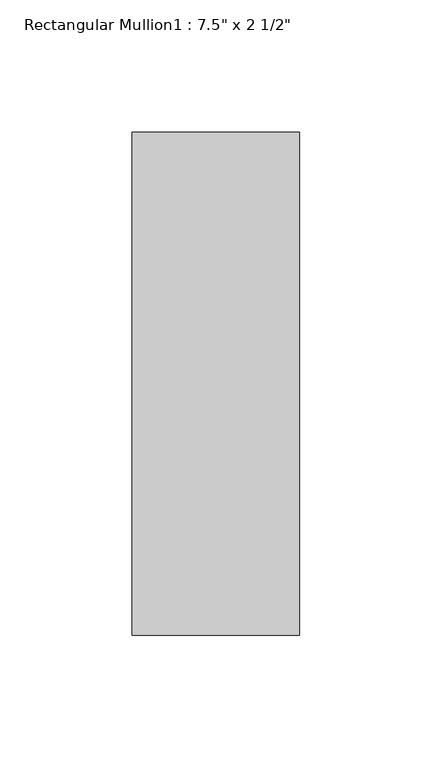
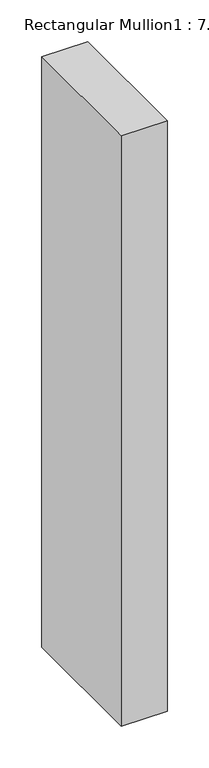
"""IFC4 building model written with IfcOpenShell, lengths in millimetres: member geometry."""

from ifc_helpers import new_model, si_unit, frame, origin, place, context, project, spatial, polyline, outline, extrude, source, transform, mapped, element, save


def member_7afd33bc(model_context):
    return source(origin(), model_context, "Body", "SweptSolid", [
        extrude(outline(polyline([(31.75, 165.1), (31.75, -25.4), (-31.75, -25.4), (-31.75, 165.1), (31.75, 165.1)])), frame((0.0, 0.0, -863.6), z_axis=(0.0, 0.0, 1.0), x_axis=(1.0, 0.0, 0.0)), (0.0, 0.0, 1.0), 863.6),
    ])


if __name__ == "__main__":
    model = new_model("IFC4")
    model_context = context("Model", 3, world=origin())
    ifc_project = project(units=[si_unit("LENGTHUNIT", "METRE", prefix="MILLI")], contexts=[model_context])
    site = spatial("IfcSite", under=ifc_project)
    building = spatial("IfcBuilding", under=site)
    placement = place(None, origin())
    member_shape = member_7afd33bc(model_context)
    element("IfcMember", 1, ObjectType="Rectangular Mullion1 : 7.5\" x 2 1/2\"", at=placement, inside=building, context=model_context, shape_type="MappedRepresentation", body=[
        mapped(member_shape, transform((0.0, 0.0, 0.0), x_axis=(1.0, 0.0, 0.0), y_axis=(0.0, 1.0, 0.0), z_axis=(0.0, 0.0, 1.0))),
    ])
    save(model, "model.ifc")
